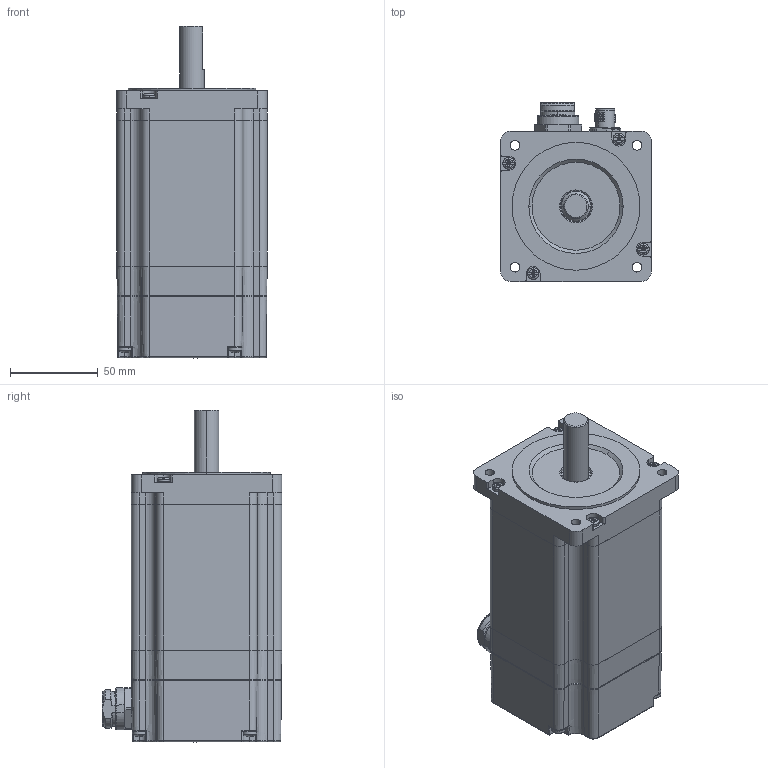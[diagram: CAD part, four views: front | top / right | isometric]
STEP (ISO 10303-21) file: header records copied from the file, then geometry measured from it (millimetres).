
FILE_DESCRIPTION (( 'STEP AP214' ), '1' );
FILE_NAME ('M86SH118-TO0512L05C.STEP', '2025-05-24T08:49:21', ( '' ), ( '' ), 'SwSTEP 2.0', 'SolidWorks 2019', '' );
FILE_SCHEMA (( 'AUTOMOTIVE_DESIGN' ));
Length unit declared in the file: millimetre
Products named in the file (1): M86SH118-TO0512L05C
Bounding box: 85.9 x 102.59 x 189.55 mm (x, y, z)
Volume: 614690.3 mm3; surface area: 191954.6 mm2
Topology: 31 solids, 31 shells, 2013 faces, 5167 edges, 3315 vertices
Faces by surface type: plane 943, cylinder 482, bspline 261, cone 195, torus 116, sphere 16
Entity records: 96116 total; most frequent: CARTESIAN_POINT 25473, ORIENTED_EDGE 10256, DIRECTION 9600, EDGE_CURVE 5128, AXIS2_PLACEMENT_3D 3424, VERTEX_POINT 3315, LINE 2752, VECTOR 2752
